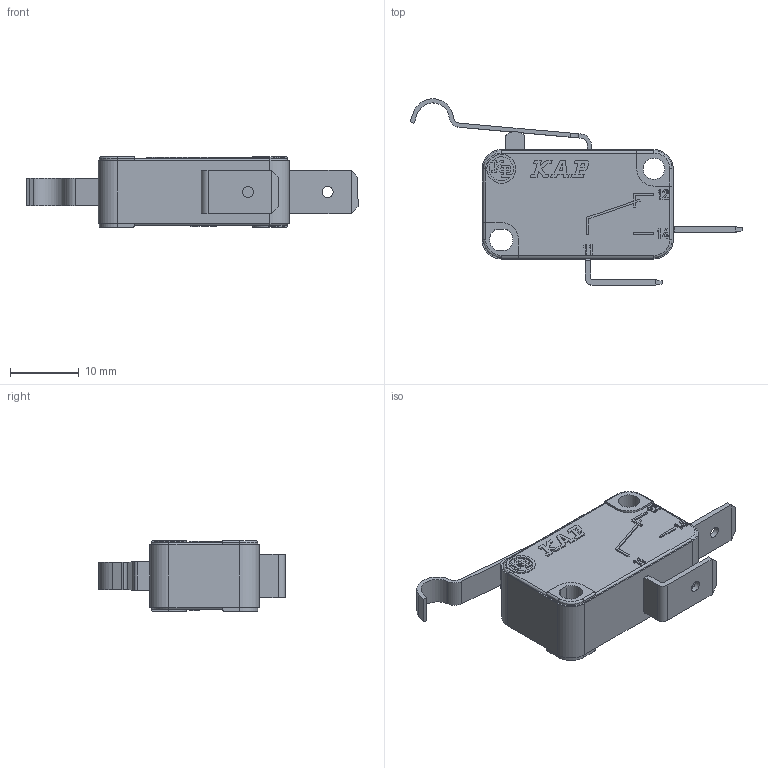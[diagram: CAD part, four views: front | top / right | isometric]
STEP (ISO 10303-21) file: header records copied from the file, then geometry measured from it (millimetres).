
FILE_DESCRIPTION(('Microrutor Miniatura Alavanca c/ Roldana Simulada NA'),'2;1');
FILE_NAME('E:\WorkFolder\Bibl\3DWeb\kp_mv_mv$d1da$_step.stp','2022-08-25T10:22:53',('DIE'),('KAP Componentes Eletricos Ltda.'),'Autodesk Inventor 2011','Autodesk Inventor 2011','Direitos reservados. Proibido reproducao, cedencia ou revelacao de conteudo a terceiros, salvo com autorizacao.');
FILE_SCHEMA(('AUTOMOTIVE_DESIGN { 1 0 10303 214 1 1 1 1 }'));
Length unit declared in the file: millimetre
Products named in the file (1): Part1
Bounding box: 48.27 x 27.09 x 10.3 mm (x, y, z)
Volume: 4288.3 mm3; surface area: 2538.7 mm2
Topology: 1 solids, 1 shells, 383 faces, 1026 edges, 677 vertices
Faces by surface type: plane 305, cylinder 70, torus 8
Full cylindrical faces by diameter (mm): 1.6 x2, 3.1 x1, 4.2 x1
Entity records: 11833 total; most frequent: CARTESIAN_POINT 2077, ORIENTED_EDGE 2038, DIRECTION 1942, EDGE_CURVE 1019, VECTOR 864, LINE 864, VERTEX_POINT 674, AXIS2_PLACEMENT_3D 539
